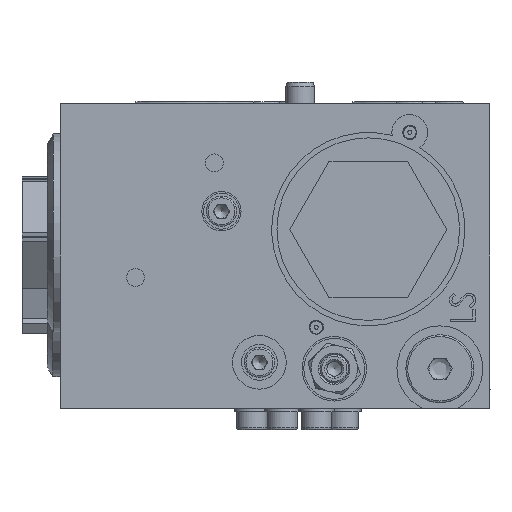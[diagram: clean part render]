
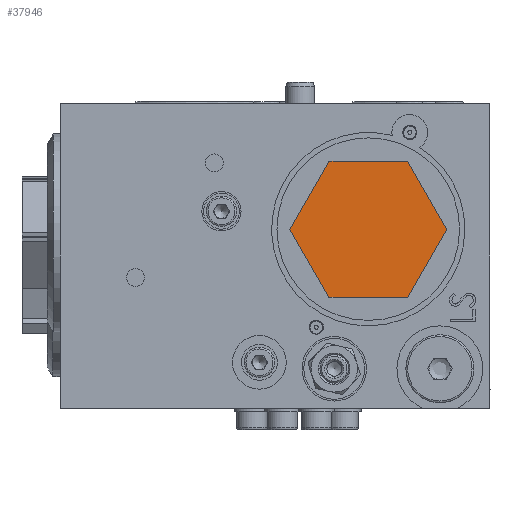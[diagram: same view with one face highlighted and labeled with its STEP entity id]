
A CAD part, left-side view. The second image highlights one B-rep face of the part: STEP entity #37946.
In plain terms, the highlighted planar face has unit normal (-1, 0, 0).
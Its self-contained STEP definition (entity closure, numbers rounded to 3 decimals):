
#239 = VERTEX_POINT ( 'NONE', #8910 ) ;
#1194 = CARTESIAN_POINT ( 'NONE',  ( -54., -21.939, 0. ) ) ;
#2270 = VECTOR ( 'NONE', #15381, 1000. ) ;
#2928 = EDGE_LOOP ( 'NONE', ( #3083, #34439, #29117, #27166, #27281, #19789 ) ) ;
#3083 = ORIENTED_EDGE ( 'NONE', *, *, #4412, .T. ) ;
#3164 = DIRECTION ( 'NONE',  ( -1., 0., 0. ) ) ;
#4412 = EDGE_CURVE ( 'NONE', #23822, #10322, #9310, .T. ) ;
#4916 = LINE ( 'NONE', #1194, #15141 ) ;
#6069 = CARTESIAN_POINT ( 'NONE',  ( -54., 21.939, 0. ) ) ;
#6478 = VERTEX_POINT ( 'NONE', #21430 ) ;
#7844 = EDGE_CURVE ( 'NONE', #34381, #239, #29777, .T. ) ;
#8497 = FACE_OUTER_BOUND ( 'NONE', #2928, .T. ) ;
#8684 = DIRECTION ( 'NONE',  ( 0., -1., 0. ) ) ;
#8910 = CARTESIAN_POINT ( 'NONE',  ( -54., 10.97, 19. ) ) ;
#9310 = LINE ( 'NONE', #18342, #24092 ) ;
#9346 = CARTESIAN_POINT ( 'NONE',  ( -54., -21.939, 0. ) ) ;
#10322 = VERTEX_POINT ( 'NONE', #38922 ) ;
#11174 = DIRECTION ( 'NONE',  ( 0., -0.5, 0.866 ) ) ;
#12228 = CARTESIAN_POINT ( 'NONE',  ( -54., -10.97, 19. ) ) ;
#14966 = CARTESIAN_POINT ( 'NONE',  ( -54., 10.97, -19. ) ) ;
#15141 = VECTOR ( 'NONE', #19098, 1000. ) ;
#15186 = EDGE_CURVE ( 'NONE', #10322, #6478, #35696, .T. ) ;
#15381 = DIRECTION ( 'NONE',  ( 0., 1., 0. ) ) ;
#17533 = PLANE ( 'NONE',  #31033 ) ;
#18342 = CARTESIAN_POINT ( 'NONE',  ( -54., 21.939, 0. ) ) ;
#18997 = CARTESIAN_POINT ( 'NONE',  ( -54., -10.97, 19. ) ) ;
#19098 = DIRECTION ( 'NONE',  ( 0., 0.5, 0.866 ) ) ;
#19789 = ORIENTED_EDGE ( 'NONE', *, *, #20310, .T. ) ;
#20310 = EDGE_CURVE ( 'NONE', #239, #23822, #24653, .T. ) ;
#20492 = CARTESIAN_POINT ( 'NONE',  ( -54., 0., 0. ) ) ;
#21430 = CARTESIAN_POINT ( 'NONE',  ( -54., -10.97, -19. ) ) ;
#23408 = EDGE_CURVE ( 'NONE', #24238, #34381, #4916, .T. ) ;
#23760 = EDGE_CURVE ( 'NONE', #6478, #24238, #38816, .T. ) ;
#23822 = VERTEX_POINT ( 'NONE', #6069 ) ;
#24092 = VECTOR ( 'NONE', #37676, 1000. ) ;
#24238 = VERTEX_POINT ( 'NONE', #9346 ) ;
#24653 = LINE ( 'NONE', #27443, #25507 ) ;
#25507 = VECTOR ( 'NONE', #31166, 1000. ) ;
#27166 = ORIENTED_EDGE ( 'NONE', *, *, #23408, .T. ) ;
#27281 = ORIENTED_EDGE ( 'NONE', *, *, #7844, .T. ) ;
#27443 = CARTESIAN_POINT ( 'NONE',  ( -54., 10.97, 19. ) ) ;
#27758 = VECTOR ( 'NONE', #11174, 1000. ) ;
#29117 = ORIENTED_EDGE ( 'NONE', *, *, #23760, .T. ) ;
#29777 = LINE ( 'NONE', #12228, #2270 ) ;
#31033 = AXIS2_PLACEMENT_3D ( 'NONE', #20492, #3164, #8684 ) ;
#31166 = DIRECTION ( 'NONE',  ( 0., 0.5, -0.866 ) ) ;
#32694 = VECTOR ( 'NONE', #32724, 1000. ) ;
#32724 = DIRECTION ( 'NONE',  ( 0., -1., 0. ) ) ;
#34381 = VERTEX_POINT ( 'NONE', #18997 ) ;
#34439 = ORIENTED_EDGE ( 'NONE', *, *, #15186, .T. ) ;
#35055 = CARTESIAN_POINT ( 'NONE',  ( -54., -10.97, -19. ) ) ;
#35696 = LINE ( 'NONE', #14966, #32694 ) ;
#37676 = DIRECTION ( 'NONE',  ( 0., -0.5, -0.866 ) ) ;
#37946 = ADVANCED_FACE ( 'NONE', ( #8497 ), #17533, .T. ) ;
#38816 = LINE ( 'NONE', #35055, #27758 ) ;
#38922 = CARTESIAN_POINT ( 'NONE',  ( -54., 10.97, -19. ) ) ;
